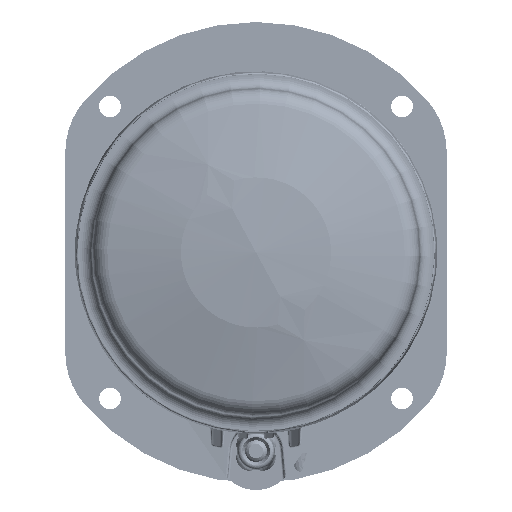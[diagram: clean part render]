
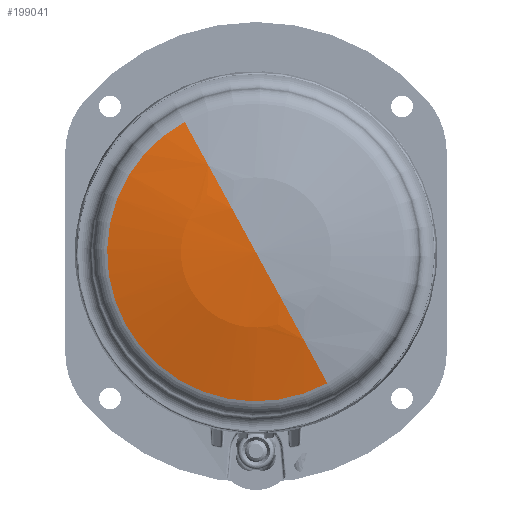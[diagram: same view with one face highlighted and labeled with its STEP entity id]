
A CAD part, left-side view. The second image highlights one B-rep face of the part: STEP entity #199041.
In plain terms, the highlighted spherical face has radius 142 mm.
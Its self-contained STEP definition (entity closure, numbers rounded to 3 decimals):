
#198990=AXIS2_PLACEMENT_3D('Circle Axis2P3D',#198988,#198989,$) ;
#199022=AXIS2_PLACEMENT_3D('Sphere Axis2P3D',#199019,#199020,#199021) ;
#199026=AXIS2_PLACEMENT_3D('Circle Axis2P3D',#199024,#199025,$) ;
#199033=AXIS2_PLACEMENT_3D('Circle Axis2P3D',#199031,#199032,$) ;
#198985=CARTESIAN_POINT('Vertex',(-46.896,-17.965,-32.885)) ;
#198988=CARTESIAN_POINT('Axis2P3D Location',(-46.896,0.,0.)) ;
#198992=CARTESIAN_POINT('Vertex',(-46.896,17.965,32.885)) ;
#199019=CARTESIAN_POINT('Axis2P3D Location',(90.07,0.,0.)) ;
#199024=CARTESIAN_POINT('Axis2P3D Location',(90.07,0.,0.)) ;
#199028=CARTESIAN_POINT('Vertex',(-51.93,0.,0.)) ;
#199031=CARTESIAN_POINT('Axis2P3D Location',(90.07,0.,0.)) ;
#198989=DIRECTION('Axis2P3D Direction',(-1.,0.,0.)) ;
#199020=DIRECTION('Axis2P3D Direction',(-1.,0.,0.)) ;
#199021=DIRECTION('Axis2P3D XDirection',(0.,0.479,0.878)) ;
#199025=DIRECTION('Axis2P3D Direction',(0.,0.878,-0.479)) ;
#199032=DIRECTION('Axis2P3D Direction',(0.,-0.878,0.479)) ;
#199037=ORIENTED_EDGE('',*,*,#199030,.T.) ;
#199038=ORIENTED_EDGE('',*,*,#199035,.F.) ;
#199039=ORIENTED_EDGE('',*,*,#198994,.T.) ;
#199041=ADVANCED_FACE('90mm-LED_ZF.1.1\\90mm-LED_Lichtscheibe_ohne_Optik.1\\PartBody',(#199040),#199023,.T.) ;
#198991=CIRCLE('generated circle',#198990,37.473) ;
#199027=CIRCLE('generated circle',#199026,142.) ;
#199034=CIRCLE('generated circle',#199033,142.) ;
#198994=EDGE_CURVE('',#198993,#198986,#198991,.T.) ;
#199030=EDGE_CURVE('',#198986,#199029,#199027,.T.) ;
#199035=EDGE_CURVE('',#198993,#199029,#199034,.T.) ;
#199036=EDGE_LOOP('',(#199037,#199038,#199039)) ;
#199040=FACE_OUTER_BOUND('',#199036,.T.) ;
#199023=SPHERICAL_SURFACE('',#199022,142.) ;
#198986=VERTEX_POINT('',#198985) ;
#198993=VERTEX_POINT('',#198992) ;
#199029=VERTEX_POINT('',#199028) ;
